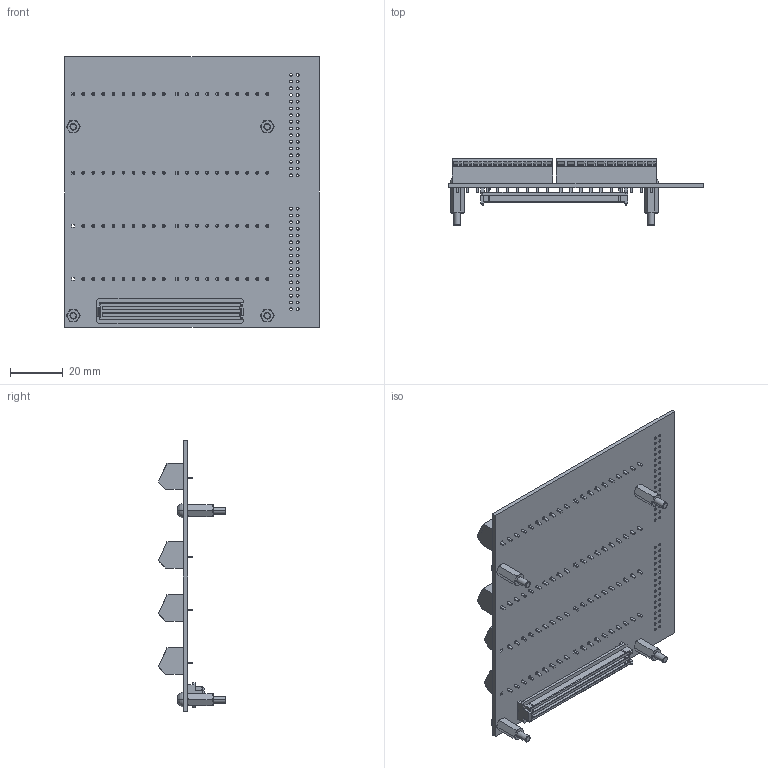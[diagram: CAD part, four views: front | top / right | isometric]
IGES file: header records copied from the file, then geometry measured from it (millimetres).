
Start section:  PTC IGES file: cu_crio-9694_06-07-2013.igs
Global section: file name: cu_crio-9694_06-07-2013.igs; native system: Pro/ENGINEER by Parametric Technology Corporation; preprocessor: 2011490; author: jbuhisan; organization: Unknown; date: 20130607.102639; units: inch
Bounding box: 96.52 x 25.5 x 102.87 mm (x, y, z)
Surface area: 32097.4 mm2 (no closed solid volume)
Topology: 0 solids, 0 shells, 2140 faces, 10352 edges, 10334 vertices
Faces by surface type: bspline 1530, revolution 610
